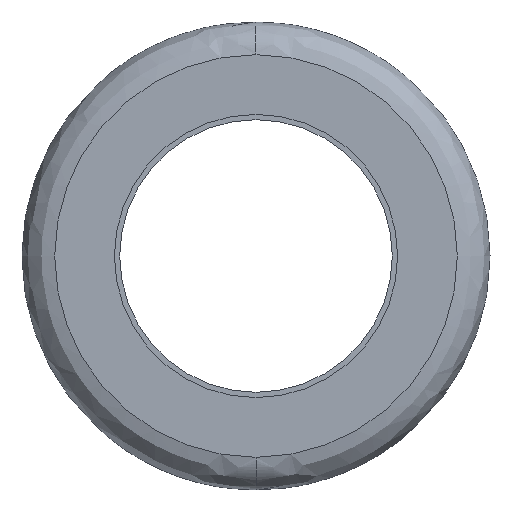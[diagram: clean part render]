
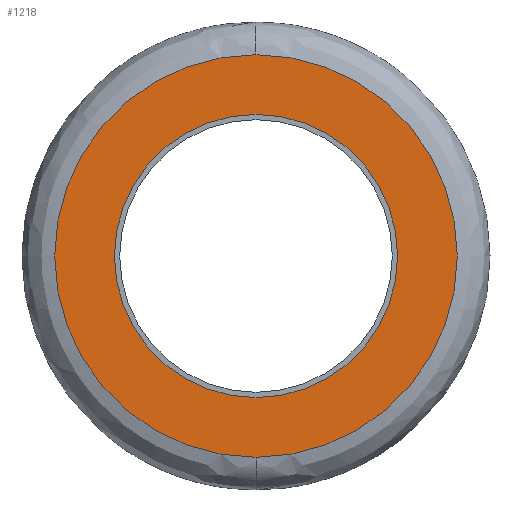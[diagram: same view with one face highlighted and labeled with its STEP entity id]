
A CAD part, front view. The second image highlights one B-rep face of the part: STEP entity #1218.
In plain terms, the highlighted planar face has unit normal (0, -1, 0).
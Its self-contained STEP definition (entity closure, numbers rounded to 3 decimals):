
#21 = CIRCLE ( 'NONE', #1599, 56.862 ) ;
#23 = DIRECTION ( 'NONE',  ( 0., 0., -1. ) ) ;
#107 = AXIS2_PLACEMENT_3D ( 'NONE', #2095, #1791, #23 ) ;
#117 = AXIS2_PLACEMENT_3D ( 'NONE', #590, #504, #1610 ) ;
#121 = DIRECTION ( 'NONE',  ( 0., 0., 1. ) ) ;
#270 = EDGE_CURVE ( 'NONE', #948, #1267, #21, .T. ) ;
#295 = CARTESIAN_POINT ( 'NONE',  ( 0., -20., -40. ) ) ;
#485 = CIRCLE ( 'NONE', #107, 40. ) ;
#504 = DIRECTION ( 'NONE',  ( 0., -1., 0. ) ) ;
#590 = CARTESIAN_POINT ( 'NONE',  ( 0., -20., 0. ) ) ;
#681 = DIRECTION ( 'NONE',  ( 0., -1., 0. ) ) ;
#775 = CARTESIAN_POINT ( 'NONE',  ( 0., -20., -56.862 ) ) ;
#799 = CIRCLE ( 'NONE', #117, 56.862 ) ;
#886 = AXIS2_PLACEMENT_3D ( 'NONE', #1456, #1444, #1296 ) ;
#922 = EDGE_CURVE ( 'NONE', #2079, #1414, #1454, .T. ) ;
#948 = VERTEX_POINT ( 'NONE', #1221 ) ;
#1080 = DIRECTION ( 'NONE',  ( 0., -1., 0. ) ) ;
#1119 = CARTESIAN_POINT ( 'NONE',  ( 0., -20., 0. ) ) ;
#1120 = EDGE_LOOP ( 'NONE', ( #1537, #1332 ) ) ;
#1218 = ADVANCED_FACE ( 'NONE', ( #1238, #1771 ), #1751, .T. ) ;
#1221 = CARTESIAN_POINT ( 'NONE',  ( 0., -20., 56.862 ) ) ;
#1238 = FACE_BOUND ( 'NONE', #1801, .T. ) ;
#1239 = DIRECTION ( 'NONE',  ( 0., 0., -1. ) ) ;
#1247 = ORIENTED_EDGE ( 'NONE', *, *, #922, .F. ) ;
#1267 = VERTEX_POINT ( 'NONE', #775 ) ;
#1285 = EDGE_CURVE ( 'NONE', #1267, #948, #799, .T. ) ;
#1296 = DIRECTION ( 'NONE',  ( 0., 0., -1. ) ) ;
#1332 = ORIENTED_EDGE ( 'NONE', *, *, #1285, .T. ) ;
#1414 = VERTEX_POINT ( 'NONE', #1861 ) ;
#1444 = DIRECTION ( 'NONE',  ( 0., -1., 0. ) ) ;
#1454 = CIRCLE ( 'NONE', #886, 40. ) ;
#1456 = CARTESIAN_POINT ( 'NONE',  ( 0., -20., 0. ) ) ;
#1491 = AXIS2_PLACEMENT_3D ( 'NONE', #1653, #1080, #1239 ) ;
#1537 = ORIENTED_EDGE ( 'NONE', *, *, #270, .T. ) ;
#1599 = AXIS2_PLACEMENT_3D ( 'NONE', #1119, #681, #121 ) ;
#1610 = DIRECTION ( 'NONE',  ( 0., 0., 1. ) ) ;
#1653 = CARTESIAN_POINT ( 'NONE',  ( 0., -20., 0. ) ) ;
#1751 = PLANE ( 'NONE',  #1491 ) ;
#1762 = EDGE_CURVE ( 'NONE', #1414, #2079, #485, .T. ) ;
#1771 = FACE_OUTER_BOUND ( 'NONE', #1120, .T. ) ;
#1791 = DIRECTION ( 'NONE',  ( 0., -1., 0. ) ) ;
#1801 = EDGE_LOOP ( 'NONE', ( #1247, #2000 ) ) ;
#1861 = CARTESIAN_POINT ( 'NONE',  ( 0., -20., 40. ) ) ;
#2000 = ORIENTED_EDGE ( 'NONE', *, *, #1762, .F. ) ;
#2079 = VERTEX_POINT ( 'NONE', #295 ) ;
#2095 = CARTESIAN_POINT ( 'NONE',  ( 0., -20., 0. ) ) ;
